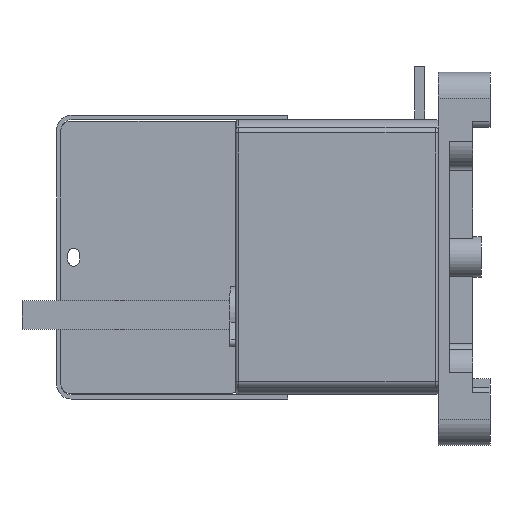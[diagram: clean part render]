
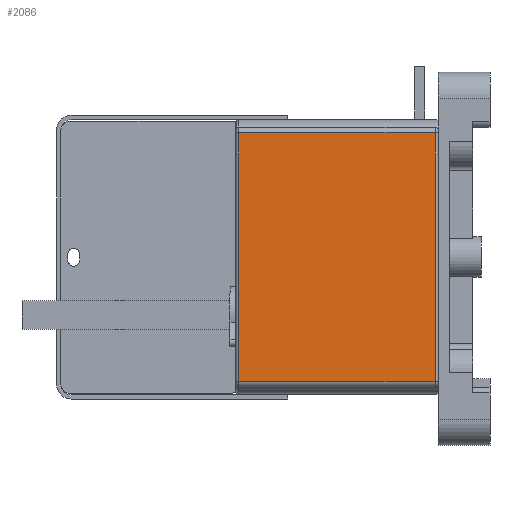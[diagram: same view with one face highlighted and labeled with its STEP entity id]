
A CAD part, left-side view. The second image highlights one B-rep face of the part: STEP entity #2086.
In plain terms, the highlighted planar face has unit normal (-1, 0, 0).
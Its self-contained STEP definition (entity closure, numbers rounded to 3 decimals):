
#2086=ADVANCED_FACE('',(#3379),#2627,.F.);
#2627=PLANE('',#17815);
#3379=FACE_OUTER_BOUND('',#4398,.T.);
#4398=EDGE_LOOP('',(#8805,#8806,#8807,#8808));
#8805=ORIENTED_EDGE('',*,*,#12968,.F.);
#8806=ORIENTED_EDGE('',*,*,#12953,.T.);
#8807=ORIENTED_EDGE('',*,*,#12969,.T.);
#8808=ORIENTED_EDGE('',*,*,#12653,.T.);
#10455=VERTEX_POINT('',#26507);
#10457=VERTEX_POINT('',#26513);
#10649=VERTEX_POINT('',#27209);
#10653=VERTEX_POINT('',#27241);
#12653=EDGE_CURVE('',#10455,#10457,#14504,.T.);
#12953=EDGE_CURVE('',#10649,#10653,#14658,.T.);
#12968=EDGE_CURVE('',#10649,#10457,#14665,.T.);
#12969=EDGE_CURVE('',#10653,#10455,#14666,.T.);
#14504=LINE('',#26514,#16201);
#14658=LINE('',#27242,#16355);
#14665=LINE('',#27295,#16362);
#14666=LINE('',#27297,#16363);
#16201=VECTOR('',#21682,1.);
#16355=VECTOR('',#22332,1.);
#16362=VECTOR('',#22359,1.);
#16363=VECTOR('',#22362,1.);
#17815=AXIS2_PLACEMENT_3D('',#27298,#22363,#22364);
#21682=DIRECTION('',(0.,0.,1.));
#22332=DIRECTION('',(0.,0.,-1.));
#22359=DIRECTION('',(0.,-1.,0.));
#22362=DIRECTION('',(0.,-1.,0.));
#22363=DIRECTION('',(1.,0.,0.));
#22364=DIRECTION('',(0.,0.,-1.));
#26507=CARTESIAN_POINT('',(-41.,1.,-43.));
#26513=CARTESIAN_POINT('',(-41.,1.,43.));
#26514=CARTESIAN_POINT('',(-41.,1.,-43.));
#27209=CARTESIAN_POINT('',(-41.,69.,43.));
#27241=CARTESIAN_POINT('',(-41.,69.,-43.));
#27242=CARTESIAN_POINT('',(-41.,69.,-43.));
#27295=CARTESIAN_POINT('',(-41.,35.,43.));
#27297=CARTESIAN_POINT('',(-41.,35.,-43.));
#27298=CARTESIAN_POINT('',(-41.,35.,-43.));
